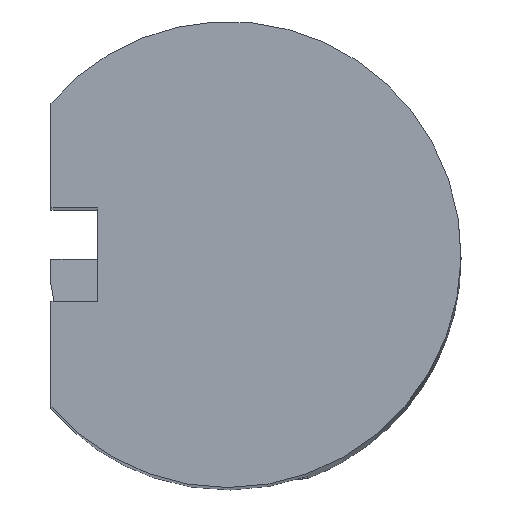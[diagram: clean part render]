
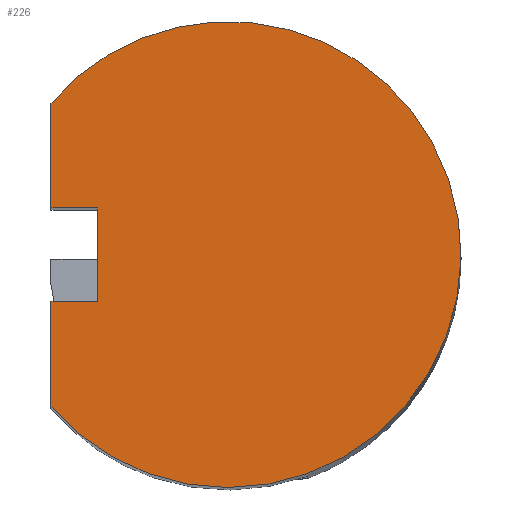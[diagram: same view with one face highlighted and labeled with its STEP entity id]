
A CAD part, top view. The second image highlights one B-rep face of the part: STEP entity #226.
In plain terms, the highlighted planar face has unit normal (0, 0, 1).
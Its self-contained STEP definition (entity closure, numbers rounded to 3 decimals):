
#90=AXIS2_PLACEMENT_3D('Circle Axis2P3D',#88,#89,$) ;
#191=AXIS2_PLACEMENT_3D('Plane Axis2P3D',#188,#189,#190) ;
#195=AXIS2_PLACEMENT_3D('Circle Axis2P3D',#193,#194,$) ;
#88=CARTESIAN_POINT('Axis2P3D Location',(0.,0.,0.)) ;
#92=CARTESIAN_POINT('Vertex',(2.194,1.199,0.)) ;
#94=CARTESIAN_POINT('Vertex',(-1.9,1.625,0.)) ;
#127=CARTESIAN_POINT('Line Origine',(-1.9,1.062,0.)) ;
#131=CARTESIAN_POINT('Vertex',(-1.9,0.5,0.)) ;
#166=CARTESIAN_POINT('Vertex',(-1.9,-1.625,0.)) ;
#169=CARTESIAN_POINT('Line Origine',(-1.9,-1.062,0.)) ;
#173=CARTESIAN_POINT('Vertex',(-1.9,-0.5,0.)) ;
#188=CARTESIAN_POINT('Axis2P3D Location',(2.5,0.,0.)) ;
#193=CARTESIAN_POINT('Axis2P3D Location',(0.,0.,0.)) ;
#198=CARTESIAN_POINT('Line Origine',(-1.65,0.5,0.)) ;
#202=CARTESIAN_POINT('Vertex',(-1.4,0.5,0.)) ;
#205=CARTESIAN_POINT('Line Origine',(-1.4,0.,0.)) ;
#209=CARTESIAN_POINT('Vertex',(-1.4,-0.5,0.)) ;
#212=CARTESIAN_POINT('Line Origine',(-1.65,-0.5,0.)) ;
#89=DIRECTION('Axis2P3D Direction',(0.,-0.,1.)) ;
#128=DIRECTION('Vector Direction',(0.,-1.,0.)) ;
#170=DIRECTION('Vector Direction',(0.,-1.,0.)) ;
#189=DIRECTION('Axis2P3D Direction',(0.,-0.,1.)) ;
#190=DIRECTION('Axis2P3D XDirection',(0.,1.,0.)) ;
#194=DIRECTION('Axis2P3D Direction',(0.,-0.,1.)) ;
#199=DIRECTION('Vector Direction',(1.,0.,0.)) ;
#206=DIRECTION('Vector Direction',(0.,1.,0.)) ;
#213=DIRECTION('Vector Direction',(-1.,0.,0.)) ;
#129=VECTOR('Line Direction',#128,1.) ;
#171=VECTOR('Line Direction',#170,1.) ;
#200=VECTOR('Line Direction',#199,1.) ;
#207=VECTOR('Line Direction',#206,1.) ;
#214=VECTOR('Line Direction',#213,1.) ;
#218=ORIENTED_EDGE('',*,*,#175,.T.) ;
#219=ORIENTED_EDGE('',*,*,#197,.T.) ;
#220=ORIENTED_EDGE('',*,*,#96,.T.) ;
#221=ORIENTED_EDGE('',*,*,#133,.T.) ;
#222=ORIENTED_EDGE('',*,*,#204,.F.) ;
#223=ORIENTED_EDGE('',*,*,#211,.F.) ;
#224=ORIENTED_EDGE('',*,*,#216,.F.) ;
#226=ADVANCED_FACE('NO_CUT',(#225),#192,.T.) ;
#91=CIRCLE('generated circle',#90,2.5) ;
#196=CIRCLE('generated circle',#195,2.5) ;
#96=EDGE_CURVE('',#93,#95,#91,.T.) ;
#133=EDGE_CURVE('',#95,#132,#130,.T.) ;
#175=EDGE_CURVE('',#174,#167,#172,.T.) ;
#197=EDGE_CURVE('',#167,#93,#196,.T.) ;
#204=EDGE_CURVE('',#203,#132,#201,.F.) ;
#211=EDGE_CURVE('',#210,#203,#208,.T.) ;
#216=EDGE_CURVE('',#174,#210,#215,.F.) ;
#217=EDGE_LOOP('',(#218,#219,#220,#221,#222,#223,#224)) ;
#225=FACE_OUTER_BOUND('',#217,.T.) ;
#130=LINE('Line',#127,#129) ;
#172=LINE('Line',#169,#171) ;
#201=LINE('Line',#198,#200) ;
#208=LINE('Line',#205,#207) ;
#215=LINE('Line',#212,#214) ;
#192=PLANE('Plane',#191) ;
#93=VERTEX_POINT('',#92) ;
#95=VERTEX_POINT('',#94) ;
#132=VERTEX_POINT('',#131) ;
#167=VERTEX_POINT('',#166) ;
#174=VERTEX_POINT('',#173) ;
#203=VERTEX_POINT('',#202) ;
#210=VERTEX_POINT('',#209) ;
